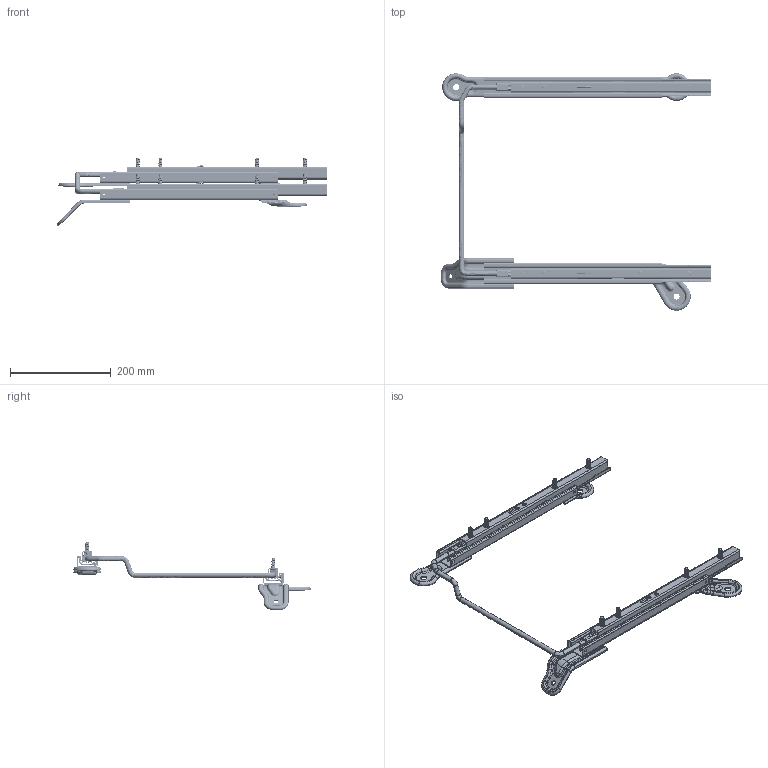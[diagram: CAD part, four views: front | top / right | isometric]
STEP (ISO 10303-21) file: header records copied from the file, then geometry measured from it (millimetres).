
FILE_DESCRIPTION(('CATIA V5 STEP Exchange'),'2;1');
FILE_NAME('C:\Users\张志强\Desktop\第二方案.stp','2024-07-15T03:35:46+00:00',('none'),('none'),'CATIA Version 5 Release 21 GA (IN-10)','CATIA V5 STEP AP203','none');
FILE_SCHEMA(('CONFIG_CONTROL_DESIGN'));
Products named in the file (1): Product1
Assembly tree (3 placements, depth 2):
  Product1
    #58
    #286546  x2
Bounding box: 537.17 x 471.44 x 136.07 mm (x, y, z)
Volume: 426383.2 mm3; surface area: 449770.9 mm2
Topology: 41 solids, 41 shells, 3624 faces, 23526 edges, 19928 vertices
Faces by surface type: cylinder 1774, plane 1287, bspline 340, torus 156, sphere 44, extrusion 19, revolution 4
Entity records: 287440 total; most frequent: CARTESIAN_POINT 136299, ORIENTED_EDGE 46736, EDGE_CURVE 23368, VERTEX_POINT 19876, B_SPLINE_CURVE_WITH_KNOTS 16220, DIRECTION 13089, AXIS2_PLACEMENT_3D 5154, VECTOR 4957
